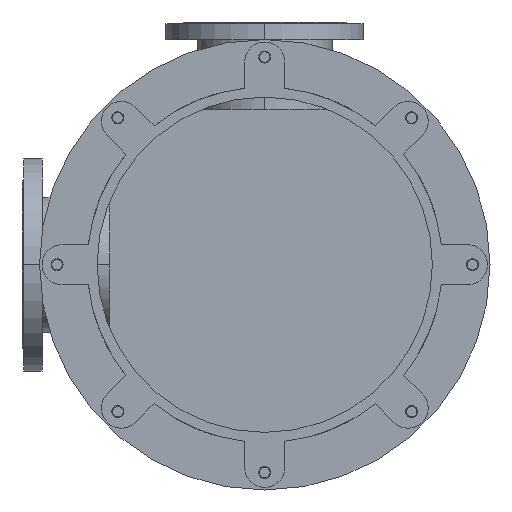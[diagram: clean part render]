
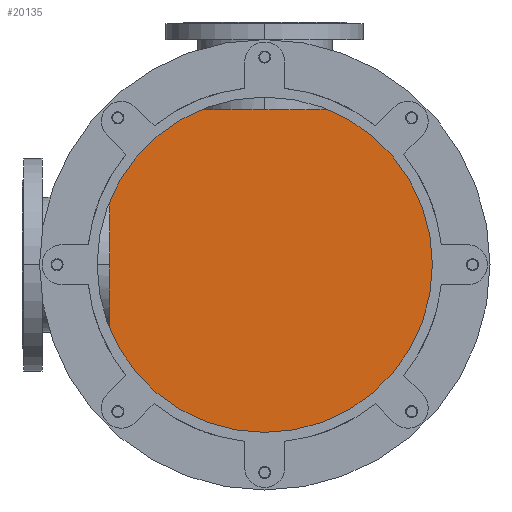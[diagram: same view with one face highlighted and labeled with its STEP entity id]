
A CAD part, front view. The second image highlights one B-rep face of the part: STEP entity #20135.
In plain terms, the highlighted planar face has unit normal (0, -1, 0).
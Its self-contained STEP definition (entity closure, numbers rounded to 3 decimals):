
#4093=CARTESIAN_POINT('',(0.,1204.,0.));
#4094=DIRECTION('',(0.,-1.,0.));
#4095=DIRECTION('',(0.,0.,1.));
#4096=AXIS2_PLACEMENT_3D('',#4093,#4094,#4095);
#4302=CARTESIAN_POINT('',(0.,1204.,0.));
#4303=DIRECTION('',(0.,-1.,0.));
#4304=DIRECTION('',(0.,0.,-1.));
#4305=AXIS2_PLACEMENT_3D('',#4302,#4303,#4304);
#9221=CARTESIAN_POINT('',(0.,1204.,350.));
#9222=CARTESIAN_POINT('',(0.,1204.,-350.));
#9223=VERTEX_POINT('',#9221);
#9224=VERTEX_POINT('',#9222);
#20126=CARTESIAN_POINT('',(0.,1204.,0.));
#20127=DIRECTION('',(0.,1.,0.));
#20128=DIRECTION('',(0.,0.,-1.));
#20129=AXIS2_PLACEMENT_3D('',#20126,#20127,#20128);
#20130=PLANE('',#20129);
#20131=ORIENTED_EDGE('',*,*,#15932,.F.);
#20132=ORIENTED_EDGE('',*,*,#16064,.F.);
#20133=EDGE_LOOP('',(#20131,#20132));
#20134=FACE_OUTER_BOUND('',#20133,.F.);
#20135=ADVANCED_FACE('',(#20134),#20130,.F.);
#4097=CIRCLE('',#4096,350.);
#4306=CIRCLE('',#4305,350.);
#15932=EDGE_CURVE('',#9223,#9224,#4097,.T.);
#16064=EDGE_CURVE('',#9224,#9223,#4306,.T.);
